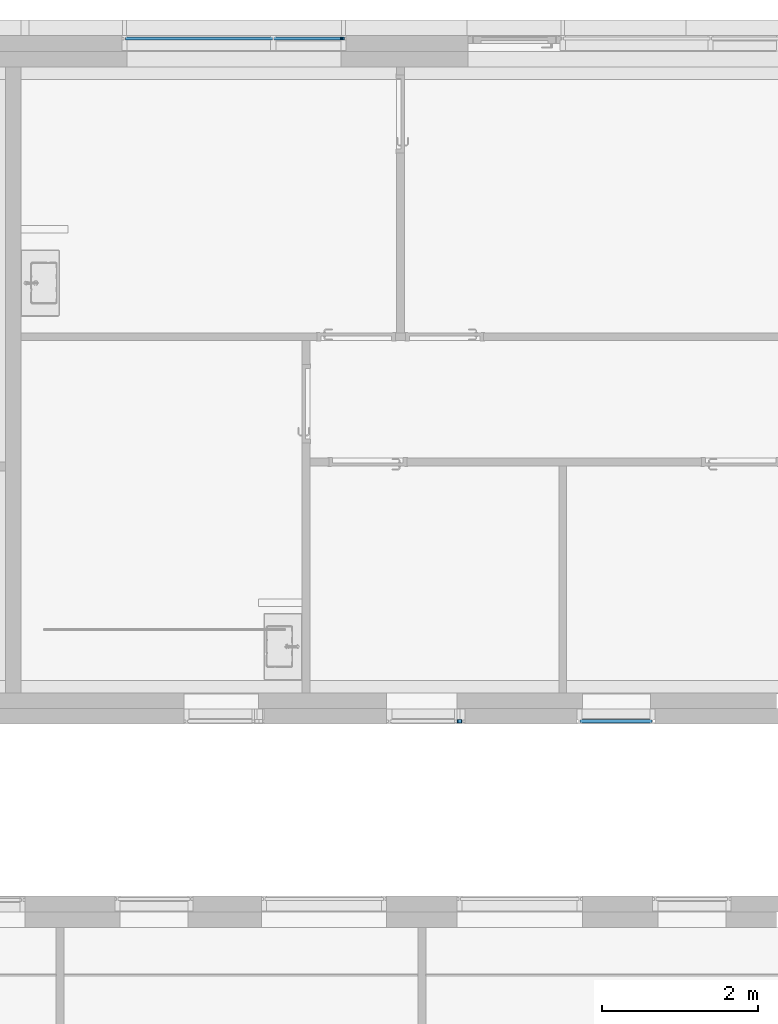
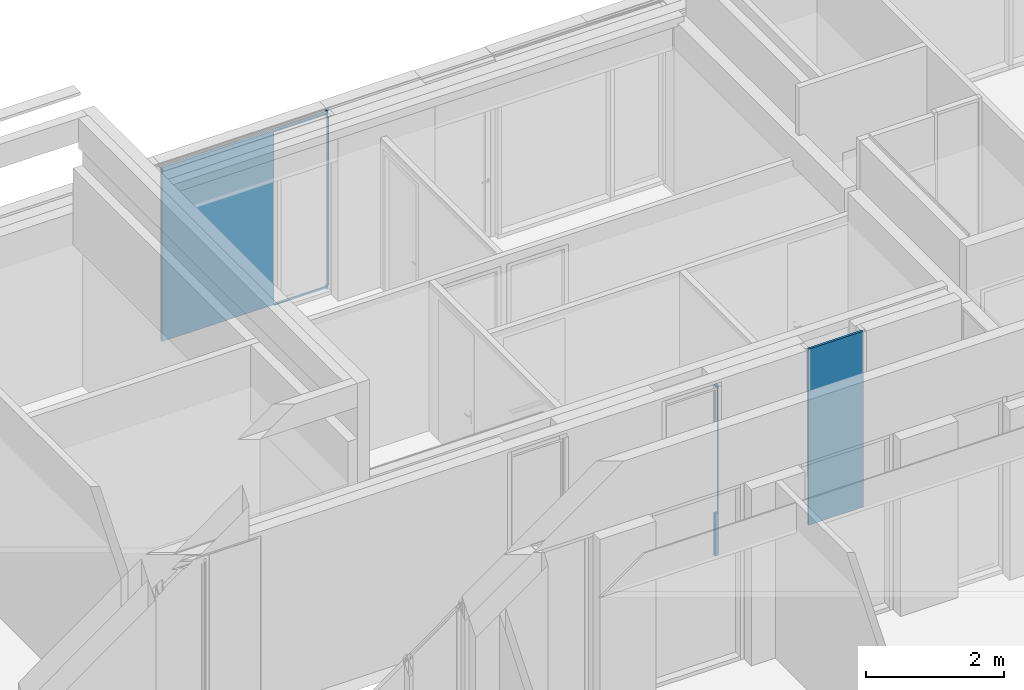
# One storey, part 179 of 240: 4 plates, 3 elements without a shape of their own.
"""IFC2X3 building model written with IfcOpenShell, lengths in centimetres."""

from ifc_helpers import new_model, entity, si_unit, converted_unit, derived_unit, direction, frame, origin, place, context, subcontext, project, spatial, face_set, faceted_brep, surface_model, source, transform, mapped, material, layer, layer_set, type_object, type_shapes, element, aggregate, save


model = new_model("IFC2X3")

# Units and contexts
model_context = context("Model", 3, precision=0.001, world=origin(), true_north=direction((6.12303176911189e-17, 1.0)))
body_context = subcontext(model_context, "Body", "Model", "MODEL_VIEW")
ifc_project = project(units=[si_unit("LENGTHUNIT", "METRE", prefix="CENTI"), si_unit("AREAUNIT", "SQUARE_METRE"), si_unit("VOLUMEUNIT", "CUBIC_METRE"), converted_unit("PLANEANGLEUNIT", "DEGREE", entity("IfcRatioMeasure", 0.0174532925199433), si_unit("PLANEANGLEUNIT", "RADIAN"), dimensions=[0, 0, 0, 0, 0, 0, 0]), si_unit("MASSUNIT", "GRAM", prefix="KILO"), derived_unit("MASSDENSITYUNIT", [(si_unit("MASSUNIT", "GRAM", prefix="KILO"), 1), (si_unit("LENGTHUNIT", "METRE"), -3)]), si_unit("TIMEUNIT", "SECOND"), si_unit("FREQUENCYUNIT", "HERTZ"), si_unit("THERMODYNAMICTEMPERATUREUNIT", "DEGREE_CELSIUS"), derived_unit("THERMALTRANSMITTANCEUNIT", [(si_unit("MASSUNIT", "GRAM", prefix="KILO"), 1), (si_unit("THERMODYNAMICTEMPERATUREUNIT", "KELVIN"), -1), (si_unit("TIMEUNIT", "SECOND"), -3)]), derived_unit("VOLUMETRICFLOWRATEUNIT", [(si_unit("LENGTHUNIT", "METRE"), 3), (si_unit("TIMEUNIT", "SECOND"), -1)]), si_unit("ELECTRICCURRENTUNIT", "AMPERE"), si_unit("ELECTRICVOLTAGEUNIT", "VOLT"), si_unit("POWERUNIT", "WATT"), si_unit("FORCEUNIT", "NEWTON", prefix="KILO"), si_unit("ILLUMINANCEUNIT", "LUX"), si_unit("LUMINOUSFLUXUNIT", "LUMEN"), si_unit("LUMINOUSINTENSITYUNIT", "CANDELA"), derived_unit("USERDEFINED", [(si_unit("MASSUNIT", "GRAM", prefix="KILO"), -1), (si_unit("LENGTHUNIT", "METRE"), -2), (si_unit("TIMEUNIT", "SECOND"), 3), (si_unit("LUMINOUSFLUXUNIT", "LUMEN"), 1)]), derived_unit("LINEARVELOCITYUNIT", [(si_unit("LENGTHUNIT", "METRE"), 1), (si_unit("TIMEUNIT", "SECOND"), -1)]), si_unit("PRESSUREUNIT", "PASCAL"), derived_unit("USERDEFINED", [(si_unit("LENGTHUNIT", "METRE"), -2), (si_unit("MASSUNIT", "GRAM", prefix="KILO"), 1), (si_unit("TIMEUNIT", "SECOND"), -2)])], contexts=[model_context])

# Site, building, storey
site_placement = place(None, frame((-2781.94577612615, 7442.24238424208, 0.0)))
site = spatial("IfcSite", under=ifc_project, at=site_placement, Name="Default", CompositionType="ELEMENT")
building_placement = place(site_placement, origin())
building = spatial("IfcBuilding", under=site, at=building_placement, CompositionType="ELEMENT")
storey_placement = place(building_placement, origin())
storey = spatial("IfcBuildingStorey", under=building, at=storey_placement, Name="N00 - COO", CompositionType="ELEMENT", Elevation=0.0)

# Curtain wall, plates
curtain_wall_type_1 = type_object("IfcCurtainWallType", Name="Mur-rideau:07 - mur rideau trame 280 cm RDC maintenance", PredefinedType="NOTDEFINED")
curtain_wall_1_placement = place(building_placement, origin())
curtain_wall_1 = element("IfcCurtainWall", 1, at=curtain_wall_1_placement, inside=storey, type_object=curtain_wall_type_1, Name="Mur-rideau:07 - mur rideau trame 280 cm RDC maintenance", ObjectType="Mur-rideau:07 - mur rideau trame 280 cm RDC maintenance")
ifc_material = material(Name="Verre")
ifc_layer = layer(ifc_material, 4.0)
ifc_layer_set = layer_set([ifc_layer], Name="Panneau système:Vitré")
plate_type_1 = type_object("IfcPlateType", Name="Vitré", PredefinedType="CURTAIN_PANEL", material=ifc_layer_set)
shared_shape_1 = source(origin(), body_context, "Body", "Brep", [
    faceted_brep([(137.940625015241, -2.0, 0.0), (50.321874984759, -2.0, 0.0), (50.321874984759, -2.0, 307.7375), (137.071875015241, -2.0, 307.7375), (137.071875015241, -2.0, 310.0), (-137.940625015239, -2.0, 310.0), (-137.940625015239, -2.0, 1.73749999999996), (137.940625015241, -2.0, 1.73749999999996), (137.940625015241, 2.0, 0.0), (137.940625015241, 2.0, 1.73749999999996), (-137.940625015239, 2.0, 1.73749999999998), (-137.940625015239, 2.0, 310.0), (137.071875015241, 2.0, 310.0), (137.071875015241, 2.0, 307.7375), (50.321874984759, 2.0, 307.7375), (50.321874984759, 2.0, 0.0)], [[[0, 1, 2, 3, 4, 5, 6, 7]], [[8, 9, 10, 11, 12, 13, 14, 15]], [[1, 0, 8, 15]], [[2, 1, 15, 14]], [[3, 2, 14, 13]], [[4, 3, 13, 12]], [[5, 4, 12, 11]], [[6, 5, 11, 10]], [[7, 6, 10, 9]], [[0, 7, 9, 8]]]),
])
type_shapes(plate_type_1, [shared_shape_1])
plate_1_placement = place(curtain_wall_1_placement, frame((-9128.19050265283, 26.20000000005, 2.38125000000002)))
plate_1 = element("IfcPlate", 2, at=plate_1_placement, type_object=plate_type_1, material=ifc_material, Name="Panneau système:Vitré", ObjectType="Panneau système:Vitré", context=body_context, shape_type="MappedRepresentation", body=[
    mapped(shared_shape_1, transform((0.0, 0.0, 0.0), scale=1.0)),
])
plate_type_2 = type_object("IfcPlateType", Name="Vitré", PredefinedType="CURTAIN_PANEL", material=ifc_layer_set)
shared_shape_2 = source(origin(), body_context, "Body", "SurfaceModel", [
    surface_model("IfcFaceBasedSurfaceModel", [(-2.05937498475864, -2.0, 0.0), (0.321874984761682, -2.0, 0.0), (0.321874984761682, -2.0, 316.500000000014), (-1.19062498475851, -2.0, 316.500000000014), (-1.19062498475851, -2.0, 306.0), (2.0593749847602, -2.0, 306.0), (2.0593749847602, -2.0, 6.49999999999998), (-2.05937498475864, -2.0, 6.5), (-2.05937498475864, 2.0, 0.0), (-2.05937498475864, 2.0, 6.5), (2.0593749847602, 2.0, 6.49999999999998), (2.0593749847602, 2.0, 306.0), (-1.19062498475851, 2.0, 306.0), (-1.19062498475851, 2.0, 316.500000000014), (0.321874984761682, 2.0, 316.500000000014), (0.321874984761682, 2.0, 0.0)], [face_set([[[0, 1, 2, 3, 4, 5, 6, 7]], [[8, 9, 10, 11, 12, 13, 14, 15]], [[1, 0, 8, 15]], [[2, 1, 15, 14]], [[3, 2, 14, 13]], [[4, 3, 13, 12]], [[5, 11, 12, 4]], [[6, 10, 11, 5]], [[7, 6, 10, 9]], [[0, 7, 9, 8]]])]),
])
type_shapes(plate_type_2, [shared_shape_2])
plate_2_placement = place(curtain_wall_1_placement, frame((-8988.19050265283, 26.2000000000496, 0.0)))
plate_2 = element("IfcPlate", 3, at=plate_2_placement, type_object=plate_type_2, Name="Panneau système:Vitré", ObjectType="Panneau système:Vitré", context=body_context, shape_type="MappedRepresentation", body=[
    mapped(shared_shape_2, transform((0.0, 0.0, 0.0), scale=1.0)),
])
aggregate(curtain_wall_1, [plate_1, plate_2])

# Curtain wall, plate
curtain_wall_type_2 = type_object("IfcCurtainWallType", Name="Mur-rideau:07 - mur rideau trame 100cm", PredefinedType="NOTDEFINED")
curtain_wall_2_placement = place(storey_placement, origin())
curtain_wall_2 = element("IfcCurtainWall", 4, at=curtain_wall_2_placement, inside=storey, type_object=curtain_wall_type_2, Name="Mur-rideau:07 - mur rideau trame 100cm", ObjectType="Mur-rideau:07 - mur rideau trame 100cm")
plate_type_3 = type_object("IfcPlateType", Name="Vitré", PredefinedType="CURTAIN_PANEL", material=ifc_layer_set)
shared_shape_3 = source(origin(), body_context, "Body", "Brep", [
    faceted_brep([(-45.8279484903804, -2.0, 0.0), (45.9345515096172, -2.0, 0.0), (45.9345515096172, -2.0, 312.381250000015), (-45.8279484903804, -2.0, 312.381250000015), (46.0, -2.0, 81.5812500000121), (-46.0, -2.0, 81.5812500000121), (-46.0, -2.0, 305.581250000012), (46.0, -2.0, 305.581250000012), (-45.8279484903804, 2.0, 0.0), (-45.8279484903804, 2.0, 312.381250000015), (45.9345515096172, 2.0, 312.381250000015), (45.9345515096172, 2.0, 0.0), (46.0, 2.0, 81.5812500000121), (46.0, 2.0, 305.581250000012), (-46.0, 2.0, 305.581250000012), (-46.0, 2.0, 81.5812500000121)], [[[0, 1, 2, 3], [4, 5, 6, 7]], [[8, 9, 10, 11], [12, 13, 14, 15]], [[1, 0, 8, 11]], [[2, 1, 11, 10]], [[3, 2, 10, 9]], [[0, 3, 9, 8]], [[5, 4, 12, 15]], [[6, 5, 15, 14]], [[7, 6, 14, 13]], [[4, 7, 13, 12]]]),
])
type_shapes(plate_type_3, [shared_shape_3])
plate_3_placement = place(curtain_wall_2_placement, frame((-8638.99987766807, -846.348500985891, 4.11874999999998)))
plate_3 = element("IfcPlate", 5, at=plate_3_placement, type_object=plate_type_3, material=ifc_material, Name="Panneau système:Vitré", ObjectType="Panneau système:Vitré", context=body_context, shape_type="MappedRepresentation", body=[
    mapped(shared_shape_3, transform((0.0, 0.0, 0.0), scale=1.0)),
])
aggregate(curtain_wall_2, [plate_3])

curtain_wall_type_3 = type_object("IfcCurtainWallType", Name="Mur-rideau:07 - mur rideau trame 90 cm", PredefinedType="NOTDEFINED")
curtain_wall_3_placement = place(storey_placement, origin())
curtain_wall_3 = element("IfcCurtainWall", 6, at=curtain_wall_3_placement, inside=storey, type_object=curtain_wall_type_3, Name="Mur-rideau:07 - mur rideau trame 90 cm", ObjectType="Mur-rideau:07 - mur rideau trame 90 cm")
plate_type_4 = type_object("IfcPlateType", Name="Vitré", PredefinedType="CURTAIN_PANEL", material=ifc_layer_set)
shared_shape_4 = source(origin(), body_context, "Body", "Brep", [
    faceted_brep([(-2.97334922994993, -2.0, 0.0), (2.9079007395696, -2.0, 0.0), (2.9079007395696, -2.0, 302.762499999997), (-2.1045992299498, -2.0, 302.762499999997), (-2.1045992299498, -2.0, 299.88125), (2.97334922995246, -2.0, 299.88125), (2.97334922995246, -2.0, 75.8812499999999), (-2.97334922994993, -2.0, 75.8812499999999), (-2.97334922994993, 2.0, 0.0), (-2.97334922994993, 2.0, 75.8812499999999), (2.97334922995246, 2.0, 75.8812499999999), (2.97334922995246, 2.0, 299.88125), (-2.1045992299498, 2.0, 299.88125), (-2.1045992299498, 2.0, 302.762499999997), (2.9079007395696, 2.0, 302.762499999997), (2.9079007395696, 2.0, 0.0)], [[[0, 1, 2, 3, 4, 5, 6, 7]], [[8, 9, 10, 11, 12, 13, 14, 15]], [[1, 0, 8, 15]], [[2, 1, 15, 14]], [[3, 2, 14, 13]], [[4, 3, 13, 12]], [[5, 4, 12, 11]], [[6, 5, 11, 10]], [[7, 6, 10, 9]], [[0, 7, 9, 8]]]),
])
type_shapes(plate_type_4, [shared_shape_4])
plate_4_placement = place(curtain_wall_3_placement, frame((-8839.02652840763, -846.348500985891, 4.11874999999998)))
plate_4 = element("IfcPlate", 7, at=plate_4_placement, type_object=plate_type_4, material=ifc_material, Name="Panneau système:Vitré", ObjectType="Panneau système:Vitré", context=body_context, shape_type="MappedRepresentation", body=[
    mapped(shared_shape_4, transform((0.0, 0.0, 0.0), scale=1.0)),
])
aggregate(curtain_wall_3, [plate_4])

save(model, "model.ifc")
